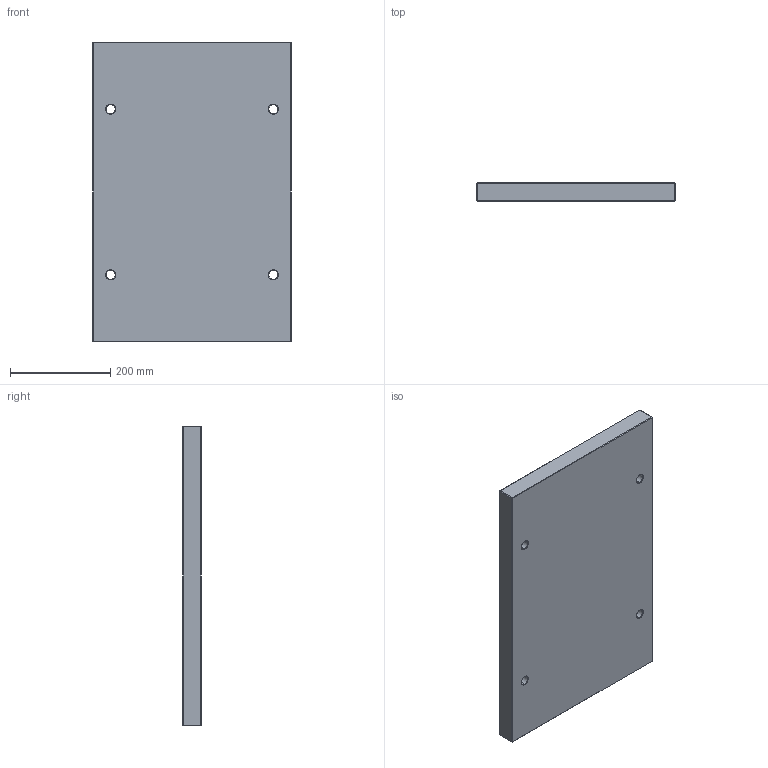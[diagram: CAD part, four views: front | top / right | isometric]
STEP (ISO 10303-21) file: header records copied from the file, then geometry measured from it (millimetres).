
FILE_DESCRIPTION (( 'STEP AP214' ), '1' );
FILE_NAME ('PBAV-396x496x36.STEP', '2020-03-18T17:21:57', ( 'August' ), ( '' ), 'SwSTEP 2.0', 'SolidWorks 2018', '' );
FILE_SCHEMA (( 'AUTOMOTIVE_DESIGN' ));
Length unit declared in the file: millimetre
Products named in the file (1): PBAV-396x496x36
Bounding box: 396 x 36 x 596 mm (x, y, z)
Volume: 8437691.8 mm3; surface area: 548647.6 mm2
Topology: 1 solids, 1 shells, 62 faces, 128 edges, 72 vertices
Faces by surface type: plane 30, cone 16, cylinder 16
Entity records: 1650 total; most frequent: DIRECTION 302, CARTESIAN_POINT 263, ORIENTED_EDGE 256, EDGE_CURVE 128, AXIS2_PLACEMENT_3D 111, LINE 80, VECTOR 80, EDGE_LOOP 74
